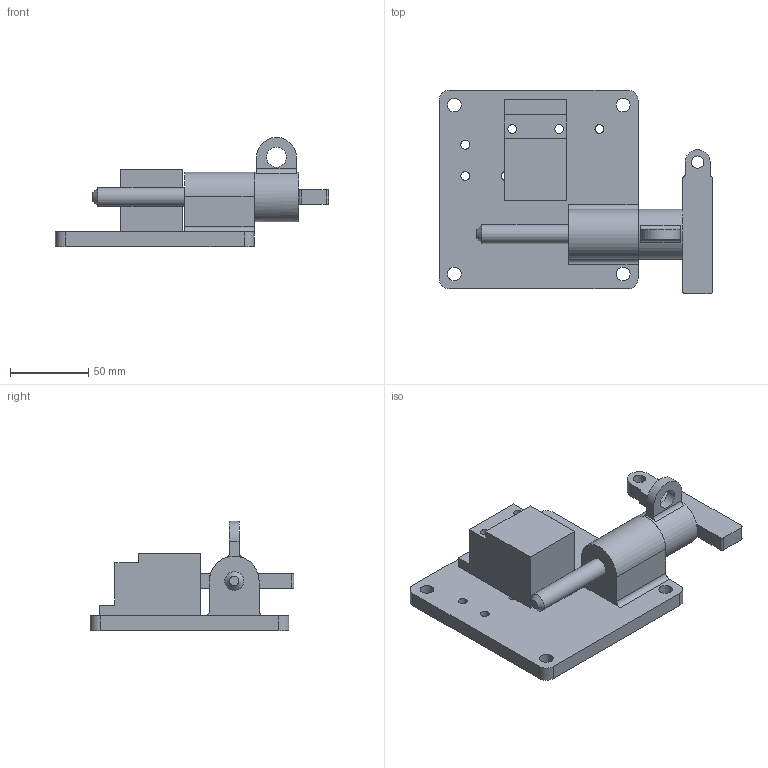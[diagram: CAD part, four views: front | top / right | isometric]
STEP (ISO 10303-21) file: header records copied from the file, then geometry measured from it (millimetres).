
FILE_DESCRIPTION(/* description */ (''),/* implementation_level */ '2;1');
FILE_NAME(/* name */ 'C:\Users\rcarver\Desktop\Tru-LOK pin\Ford-FCA\With Switch\SP12Y100TY00201.stp',/* time_stamp */ '2016-06-21T11:08:09-04:00',/* author */ ('rcarver'),/* organization */ (''),/* preprocessor_version */ 'ST-DEVELOPER v16.5',/* originating_system */ 'Autodesk Inventor 2017',/* authorisation */ '');
FILE_SCHEMA (('AUTOMOTIVE_DESIGN { 1 0 10303 214 3 1 1 }'));
Length unit declared in the file: millimetre
Products named in the file (1): SP12Y100TY00201
Bounding box: 174.62 x 130.18 x 69.85 mm (x, y, z)
Volume: 331208.5 mm3; surface area: 69589.8 mm2
Topology: 3 solids, 3 shells, 69 faces, 193 edges, 132 vertices
Faces by surface type: plane 37, cylinder 31, cone 1
Full cylindrical faces by diameter (mm): 5.588 x2, 5.59 x6, 7.94 x1, 8.74 x4, 12 x1, 12.7 x1, 31.75 x1
Entity records: 2196 total; most frequent: DIRECTION 368, CARTESIAN_POINT 346, ORIENTED_EDGE 320, EDGE_CURVE 160, AXIS2_PLACEMENT_3D 138, EDGE_LOOP 116, VERTEX_POINT 116, LINE 92
